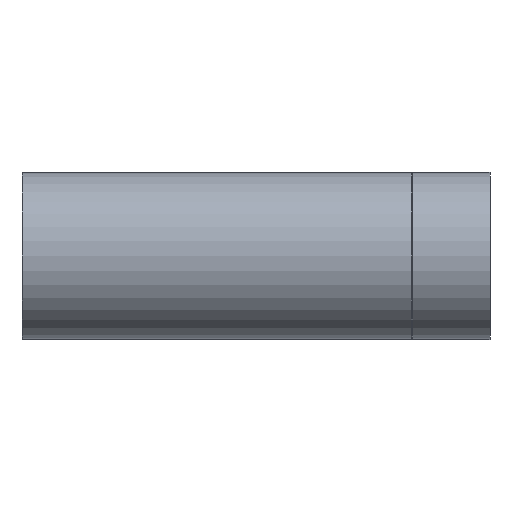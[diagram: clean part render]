
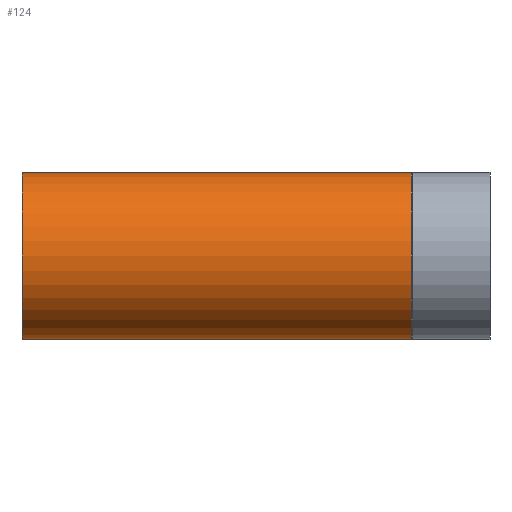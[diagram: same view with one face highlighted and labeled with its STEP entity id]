
A CAD part, left-side view. The second image highlights one B-rep face of the part: STEP entity #124.
In plain terms, the highlighted cylindrical face has radius 37.5 mm (diameter 75 mm), a full revolution.
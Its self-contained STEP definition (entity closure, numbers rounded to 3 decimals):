
#16=B_SPLINE_CURVE_WITH_KNOTS($,3,(#205,#206,#207,#208,#209,#210,#211,#212,
#213,#214,#215,#216,#217,#218,#219,#220,#221,#222,#223,#224,#225,#226,#227,
#228,#229,#230,#231,#232,#233,#234,#235,#236,#237,#238,#239,#240,#241,#242,
#243,#244,#245,#246,#247,#248,#249,#250,#251,#252,#253,#254,#255,#256,#257,
#258,#259,#260,#261,#262,#263,#264,#265,#266),.UNSPECIFIED.,.T.,.F.,(4,
2,2,2,2,2,2,2,2,2,2,2,2,2,2,2,2,2,2,2,2,2,2,2,2,2,2,2,2,2,4),(0.,0.981,
1.961,2.962,3.963,5.106,5.678,
6.249,6.821,7.392,8.535,9.536,
10.537,11.517,12.498,13.094,13.69,
14.286,14.882,15.48,16.078,16.526,
16.975,17.423,17.871,18.469,19.068,
19.663,20.259,20.855,21.451),
 .UNSPECIFIED.);
#18=CYLINDRICAL_SURFACE($,#140,37.5);
#25=FACE_BOUND($,#49,.T.);
#26=FACE_BOUND($,#50,.T.);
#27=FACE_BOUND($,#51,.T.);
#49=EDGE_LOOP($,(#102));
#50=EDGE_LOOP($,(#103));
#51=EDGE_LOOP($,(#104));
#69=CIRCLE($,#139,37.5);
#70=CIRCLE($,#141,37.5);
#78=VERTEX_POINT($,#201);
#79=VERTEX_POINT($,#204);
#80=VERTEX_POINT($,#267);
#89=EDGE_CURVE($,#78,#78,#69,.T.);
#90=EDGE_CURVE($,#79,#79,#16,.T.);
#91=EDGE_CURVE($,#80,#80,#70,.T.);
#102=ORIENTED_EDGE($,*,*,#90,.T.);
#103=ORIENTED_EDGE($,*,*,#91,.T.);
#104=ORIENTED_EDGE($,*,*,#89,.T.);
#124=ADVANCED_FACE($,(#25,#26,#27),#18,.T.);
#139=AXIS2_PLACEMENT_3D($,#202,#164,#165);
#140=AXIS2_PLACEMENT_3D($,#203,#166,#167);
#141=AXIS2_PLACEMENT_3D($,#268,#168,#169);
#164=DIRECTION('center_axis',(0.,1.,0.));
#165=DIRECTION('ref_axis',(1.,0.,0.));
#166=DIRECTION('center_axis',(0.,1.,0.));
#167=DIRECTION('ref_axis',(1.,0.,0.));
#168=DIRECTION('center_axis',(0.,-1.,0.));
#169=DIRECTION('ref_axis',(1.,0.,0.));
#201=CARTESIAN_POINT('',(37.5,35.433,0.));
#202=CARTESIAN_POINT('Origin',(0.,35.433,0.));
#203=CARTESIAN_POINT('Origin',(0.,0.,0.));
#204=CARTESIAN_POINT('',(24.945,94.945,28.));
#205=CARTESIAN_POINT('Ctrl Pts',(24.945,94.945,28.));
#206=CARTESIAN_POINT('Ctrl Pts',(24.945,98.214,28.));
#207=CARTESIAN_POINT('Ctrl Pts',(25.281,101.757,27.707));
#208=CARTESIAN_POINT('Ctrl Pts',(26.359,108.74,26.683));
#209=CARTESIAN_POINT('Ctrl Pts',(27.091,112.181,25.953));
#210=CARTESIAN_POINT('Ctrl Pts',(28.575,118.403,24.31));
#211=CARTESIAN_POINT('Ctrl Pts',(29.482,121.787,23.231));
#212=CARTESIAN_POINT('Ctrl Pts',(31.37,128.339,20.61));
#213=CARTESIAN_POINT('Ctrl Pts',(32.348,131.507,19.064));
#214=CARTESIAN_POINT('Ctrl Pts',(34.223,137.398,15.481));
#215=CARTESIAN_POINT('Ctrl Pts',(35.29,140.611,13.04));
#216=CARTESIAN_POINT('Ctrl Pts',(36.519,144.241,8.657));
#217=CARTESIAN_POINT('Ctrl Pts',(36.865,145.254,7.078));
#218=CARTESIAN_POINT('Ctrl Pts',(37.356,146.682,3.702));
#219=CARTESIAN_POINT('Ctrl Pts',(37.5,147.098,1.905));
#220=CARTESIAN_POINT('Ctrl Pts',(37.5,147.098,-1.905));
#221=CARTESIAN_POINT('Ctrl Pts',(37.356,146.682,-3.702));
#222=CARTESIAN_POINT('Ctrl Pts',(36.865,145.254,-7.078));
#223=CARTESIAN_POINT('Ctrl Pts',(36.519,144.241,-8.657));
#224=CARTESIAN_POINT('Ctrl Pts',(35.29,140.611,-13.04));
#225=CARTESIAN_POINT('Ctrl Pts',(34.223,137.398,-15.481));
#226=CARTESIAN_POINT('Ctrl Pts',(32.348,131.507,-19.064));
#227=CARTESIAN_POINT('Ctrl Pts',(31.37,128.339,-20.61));
#228=CARTESIAN_POINT('Ctrl Pts',(29.482,121.787,-23.231));
#229=CARTESIAN_POINT('Ctrl Pts',(28.575,118.403,-24.31));
#230=CARTESIAN_POINT('Ctrl Pts',(27.091,112.181,-25.953));
#231=CARTESIAN_POINT('Ctrl Pts',(26.359,108.74,-26.683));
#232=CARTESIAN_POINT('Ctrl Pts',(25.281,101.757,-27.707));
#233=CARTESIAN_POINT('Ctrl Pts',(24.945,98.214,-28.));
#234=CARTESIAN_POINT('Ctrl Pts',(24.945,92.959,-28.));
#235=CARTESIAN_POINT('Ctrl Pts',(25.067,90.89,-27.894));
#236=CARTESIAN_POINT('Ctrl Pts',(25.665,86.827,-27.345));
#237=CARTESIAN_POINT('Ctrl Pts',(26.144,84.834,-26.899));
#238=CARTESIAN_POINT('Ctrl Pts',(27.427,81.138,-25.59));
#239=CARTESIAN_POINT('Ctrl Pts',(28.231,79.425,-24.721));
#240=CARTESIAN_POINT('Ctrl Pts',(29.968,76.392,-22.585));
#241=CARTESIAN_POINT('Ctrl Pts',(30.895,75.069,-21.317));
#242=CARTESIAN_POINT('Ctrl Pts',(32.643,72.826,-18.532));
#243=CARTESIAN_POINT('Ctrl Pts',(33.562,71.786,-16.848));
#244=CARTESIAN_POINT('Ctrl Pts',(35.16,70.098,-13.192));
#245=CARTESIAN_POINT('Ctrl Pts',(35.835,69.445,-11.22));
#246=CARTESIAN_POINT('Ctrl Pts',(36.681,68.646,-7.931));
#247=CARTESIAN_POINT('Ctrl Pts',(36.994,68.358,-6.348));
#248=CARTESIAN_POINT('Ctrl Pts',(37.404,67.987,-3.129));
#249=CARTESIAN_POINT('Ctrl Pts',(37.5,67.902,-1.494));
#250=CARTESIAN_POINT('Ctrl Pts',(37.5,67.902,1.494));
#251=CARTESIAN_POINT('Ctrl Pts',(37.404,67.987,3.129));
#252=CARTESIAN_POINT('Ctrl Pts',(36.994,68.358,6.348));
#253=CARTESIAN_POINT('Ctrl Pts',(36.681,68.646,7.931));
#254=CARTESIAN_POINT('Ctrl Pts',(35.835,69.445,11.22));
#255=CARTESIAN_POINT('Ctrl Pts',(35.16,70.098,13.192));
#256=CARTESIAN_POINT('Ctrl Pts',(33.562,71.786,16.848));
#257=CARTESIAN_POINT('Ctrl Pts',(32.643,72.826,18.532));
#258=CARTESIAN_POINT('Ctrl Pts',(30.895,75.069,21.317));
#259=CARTESIAN_POINT('Ctrl Pts',(29.968,76.392,22.585));
#260=CARTESIAN_POINT('Ctrl Pts',(28.231,79.425,24.721));
#261=CARTESIAN_POINT('Ctrl Pts',(27.427,81.138,25.59));
#262=CARTESIAN_POINT('Ctrl Pts',(26.144,84.834,26.899));
#263=CARTESIAN_POINT('Ctrl Pts',(25.665,86.827,27.345));
#264=CARTESIAN_POINT('Ctrl Pts',(25.067,90.89,27.894));
#265=CARTESIAN_POINT('Ctrl Pts',(24.945,92.959,28.));
#266=CARTESIAN_POINT('Ctrl Pts',(24.945,94.945,28.));
#267=CARTESIAN_POINT('',(-37.5,210.,0.));
#268=CARTESIAN_POINT('Origin',(0.,210.,0.));
